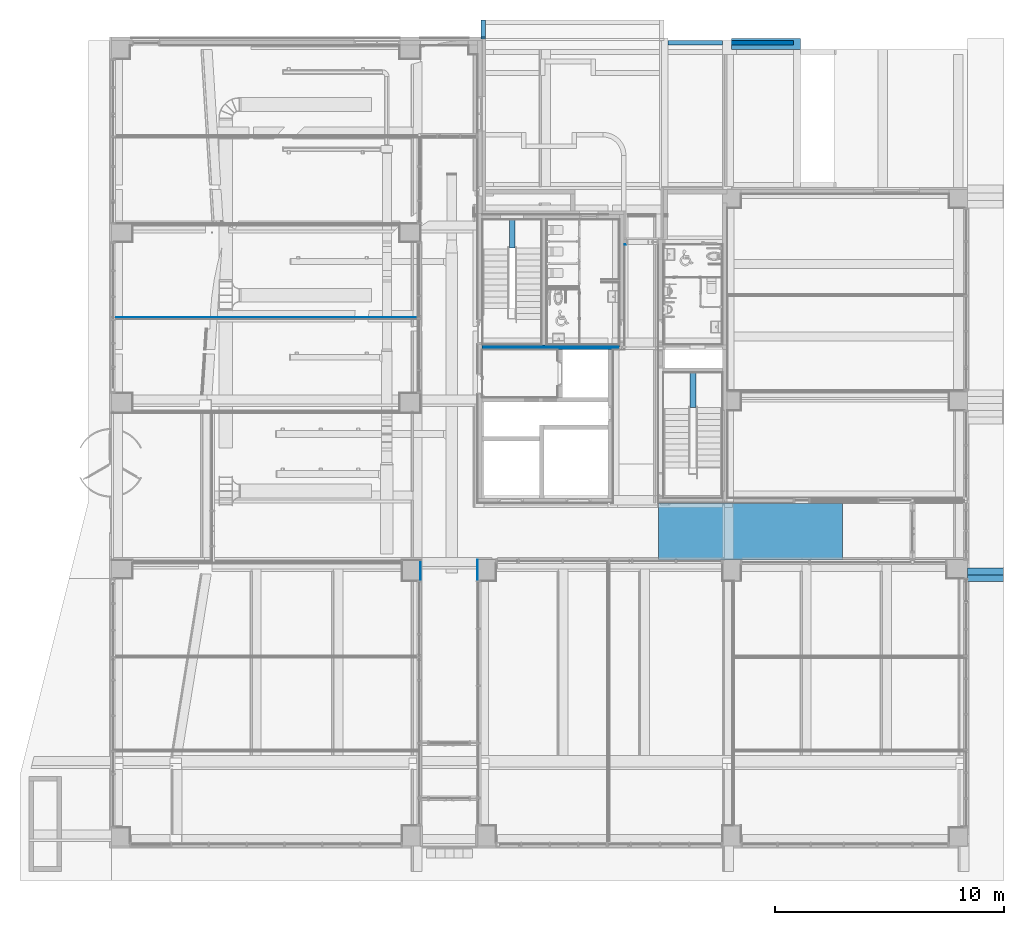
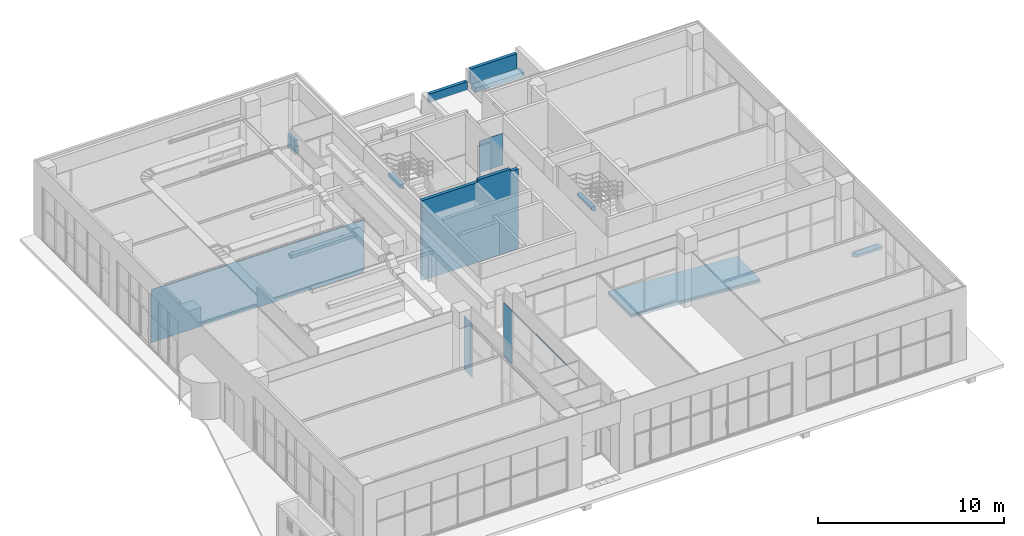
# One storey, part 54 of 100: 9 walls, 3 stair flights, 2 ramps, 3 elements without a shape of their own.
"""IFC2X3 building model written with IfcOpenShell, lengths in millimetres."""

from ifc_helpers import new_model, entity, si_unit, converted_unit, derived_unit, direction, frame, frame_2d, origin, place, context, subcontext, project, spatial, polyline, rectangle, outline, extrude, clip, halfspace, faceted_brep, material, layer, layer_set, layer_usage, type_object, element, aggregate, save


model = new_model("IFC2X3")

# Units and contexts
model_context = context("Model", 3, precision=0.01, world=origin(), true_north=direction((6.123031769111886e-17, 1.0)))
body_context = subcontext(model_context, "Body", "Model", "MODEL_VIEW")
ifc_project = project(units=[si_unit("LENGTHUNIT", "METRE", prefix="MILLI"), si_unit("AREAUNIT", "SQUARE_METRE"), si_unit("VOLUMEUNIT", "CUBIC_METRE"), converted_unit("PLANEANGLEUNIT", "DEGREE", entity("IfcRatioMeasure", 0.017453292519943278), si_unit("PLANEANGLEUNIT", "RADIAN"), dimensions=[0, 0, 0, 0, 0, 0, 0]), si_unit("MASSUNIT", "GRAM", prefix="KILO"), derived_unit("MASSDENSITYUNIT", [(si_unit("MASSUNIT", "GRAM", prefix="KILO"), 1), (si_unit("LENGTHUNIT", "METRE"), -3)]), derived_unit("MOMENTOFINERTIAUNIT", [(si_unit("LENGTHUNIT", "METRE"), 4)]), si_unit("TIMEUNIT", "SECOND"), si_unit("FREQUENCYUNIT", "HERTZ"), si_unit("THERMODYNAMICTEMPERATUREUNIT", "DEGREE_CELSIUS"), derived_unit("THERMALTRANSMITTANCEUNIT", [(si_unit("MASSUNIT", "GRAM", prefix="KILO"), 1), (si_unit("THERMODYNAMICTEMPERATUREUNIT", "KELVIN"), -1), (si_unit("TIMEUNIT", "SECOND"), -3)]), derived_unit("VOLUMETRICFLOWRATEUNIT", [(si_unit("LENGTHUNIT", "METRE"), 3), (si_unit("TIMEUNIT", "SECOND"), -1)]), derived_unit("MASSFLOWRATEUNIT", [(si_unit("MASSUNIT", "GRAM", prefix="KILO"), 1), (si_unit("TIMEUNIT", "SECOND"), -1)]), derived_unit("ROTATIONALFREQUENCYUNIT", [(si_unit("TIMEUNIT", "SECOND"), -1)]), si_unit("ELECTRICCURRENTUNIT", "AMPERE"), si_unit("ELECTRICVOLTAGEUNIT", "VOLT"), si_unit("POWERUNIT", "WATT"), si_unit("FORCEUNIT", "NEWTON", prefix="KILO"), si_unit("ILLUMINANCEUNIT", "LUX"), si_unit("LUMINOUSFLUXUNIT", "LUMEN"), si_unit("LUMINOUSINTENSITYUNIT", "CANDELA"), derived_unit("USERDEFINED", [(si_unit("MASSUNIT", "GRAM", prefix="KILO"), -1), (si_unit("LENGTHUNIT", "METRE"), -2), (si_unit("TIMEUNIT", "SECOND"), 3), (si_unit("LUMINOUSFLUXUNIT", "LUMEN"), 1)]), derived_unit("SOUNDPOWERUNIT", [(si_unit("MASSUNIT", "GRAM", prefix="KILO"), 1), (si_unit("LENGTHUNIT", "METRE"), 2), (si_unit("TIMEUNIT", "SECOND"), -3)]), derived_unit("SOUNDPRESSUREUNIT", [(si_unit("MASSUNIT", "GRAM", prefix="KILO"), 1), (si_unit("LENGTHUNIT", "METRE"), -1), (si_unit("TIMEUNIT", "SECOND"), -2)]), derived_unit("LINEARVELOCITYUNIT", [(si_unit("LENGTHUNIT", "METRE"), 1), (si_unit("TIMEUNIT", "SECOND"), -1)]), si_unit("PRESSUREUNIT", "PASCAL"), derived_unit("USERDEFINED", [(si_unit("LENGTHUNIT", "METRE"), -2), (si_unit("MASSUNIT", "GRAM", prefix="KILO"), 1), (si_unit("TIMEUNIT", "SECOND"), -2)]), derived_unit("LINEARFORCEUNIT", [(si_unit("MASSUNIT", "GRAM", prefix="KILO"), 1), (si_unit("LENGTHUNIT", "METRE"), 1), (si_unit("TIMEUNIT", "SECOND"), -2), (si_unit("LENGTHUNIT", "METRE"), -1)]), derived_unit("PLANARFORCEUNIT", [(si_unit("MASSUNIT", "GRAM", prefix="KILO"), 1), (si_unit("LENGTHUNIT", "METRE"), 1), (si_unit("TIMEUNIT", "SECOND"), -2), (si_unit("LENGTHUNIT", "METRE"), -2)])], contexts=[model_context])

# Site, building, storey
site_placement = place(None, frame((-14167.972527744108, -657.2125860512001, 0.0)))
site = spatial("IfcSite", under=ifc_project, at=site_placement, Name="Default", CompositionType="ELEMENT")
building_placement = place(site_placement, origin())
building = spatial("IfcBuilding", under=site, at=building_placement, Name="Sample Building", CompositionType="ELEMENT")
storey_placement = place(building_placement, origin())
storey = spatial("IfcBuildingStorey", under=building, at=storey_placement, Name="지상 1층", CompositionType="ELEMENT", Elevation=0.0)

# Walls
ifc_material_1 = material(Name="KBIMS-콘크리트")
ifc_layer_1 = layer(ifc_material_1, 200.0)
ifc_layer_set_1 = layer_set([ifc_layer_1], Name="기본 벽:WA111-철근콘크리트구조 벽 200mm_CW1")
wall_type_1 = type_object("IfcWallType", Name="기본 벽:WA111-철근콘크리트구조 벽 200mm_CW1", PredefinedType="STANDARD", material=ifc_layer_set_1)
wall_1_placement = place(storey_placement, frame((30266.125814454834, 22357.21231133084, -600.0)))
element("IfcWall", 1, at=wall_1_placement, inside=storey, type_object=wall_type_1, Name="기본 벽:WA111-철근콘크리트구조 벽 200mm_CW1", ObjectType="기본 벽:WA111-철근콘크리트구조 벽 200mm_CW1", context=body_context, shape_type="Brep", body=[
    faceted_brep([(0.0, -100.0, 0.0), (5701.846676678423, -100.0, 0.0), (5977.1200846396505, -100.0, 0.0), (6001.837983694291, -100.0, 0.0), (6001.837983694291, -100.0, 50.0), (6001.837983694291, -100.0, 5250.0), (5901.829327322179, -100.0, 5250.0), (5701.846676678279, -100.0, 5250.0), (5501.846676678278, -100.0, 5250.0), (5501.846676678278, -100.0, 5400.0), (3501.846676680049, -100.0, 5400.0), (3501.846676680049, -100.0, 5250.0), (3301.846676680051, -100.0, 5250.0), (1.8206343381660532, -100.0, 5250.0), (0.0, -100.0, 5250.0), (0.0, -100.0, 5000.0), (0.0, -100.0, 680.0), (0.0, -100.0, 600.0), (0.0, -100.0, 450.0), (6001.837983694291, 100.0, 0.0), (5701.846676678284, 100.0, 0.0), (5677.128777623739, 100.0, 0.0), (2801.8466766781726, 100.0, 0.0), (1389.137983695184, 100.0, 0.0), (0.0, 100.0, 0.0), (0.0, 100.0, 600.0), (0.0, 100.0, 5000.0), (0.0, 100.0, 5250.0), (1.8379470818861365, 100.0, 5250.0), (3501.846676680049, 100.0, 5250.0), (3501.846676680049, 100.0, 5400.0), (5501.846676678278, 100.0, 5400.0), (5501.846676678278, 100.0, 5250.0), (6001.837983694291, 100.0, 5250.0), (6001.837983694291, 100.0, 5200.0), (6001.837983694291, 100.0, 5000.0), (6001.837983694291, 100.0, 90.0), (6001.837983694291, 100.0, 50.0), (6001.837983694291, 13.864807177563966, 0.0)], [[[0, 1, 2, 3, 4, 5, 6, 7, 8, 9, 10, 11, 12, 13, 14, 15, 16, 17, 18]], [[19, 20, 21, 22, 23, 24, 25, 26, 27, 28, 29, 30, 31, 32, 33, 34, 35, 36, 37]], [[3, 2, 1, 0, 24, 23, 22, 21, 20, 19, 38]], [[10, 9, 31, 30]], [[3, 38, 19, 37, 36, 35, 34, 33, 5, 4]], [[11, 29, 28, 27, 14, 13, 12]], [[29, 11, 10, 30]], [[8, 32, 31, 9]], [[24, 0, 18, 17, 16, 15, 14, 27, 26, 25]], [[32, 8, 7, 6, 5, 33]]]),
])
wall_2_placement = place(storey_placement, frame((30317.97249113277, 35832.21229514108, -550.0), z_axis=(0.0, 0.0, 1.0), x_axis=(0.0, 1.0, 0.0)))
element("IfcWall", 2, at=wall_2_placement, inside=storey, type_object=wall_type_1, Name="기본 벽:WA111-철근콘크리트구조 벽 200mm_CW1", ObjectType="기본 벽:WA111-철근콘크리트구조 벽 200mm_CW1", context=body_context, shape_type="Brep", body=[
    faceted_brep([(0.0, -100.0, 0.0), (624.9999801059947, -100.0, 0.0), (824.999980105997, -100.0, 0.0), (824.999980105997, -100.0, 900.0), (624.9999801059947, -100.0, 900.0), (75.0, -100.0, 900.0), (75.0, -100.0, 550.0), (0.0, -100.0, 550.0), (0.0, 100.0, 0.0), (0.0, 100.0, 550.0), (25.000012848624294, 100.0, 550.0), (75.0, 100.0, 550.0), (75.0, 100.0, 900.0), (824.999980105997, 100.0, 900.0), (824.999980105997, 100.0, 0.0), (25.000012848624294, 100.0, 0.0), (0.0, 50.00872959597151, 0.0), (0.0, 50.00872959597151, 550.0)], [[[0, 1, 2, 3, 4, 5, 6, 7]], [[8, 9, 10, 11, 12, 13, 14, 15]], [[2, 1, 0, 16, 8, 15, 14]], [[5, 4, 3, 13, 12]], [[3, 2, 14, 13]], [[0, 7, 17, 9, 8, 16]], [[6, 11, 10, 9, 17, 7]], [[6, 5, 12, 11]]]),
])
ifc_layer_usage_1 = layer_usage(ifc_layer_set_1, "AXIS2", "POSITIVE", -100.0)
wall_3_placement = place(storey_placement, frame((40767.96379814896, 35657.21230798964, 200.0), z_axis=(0.0, 0.0, 1.0), x_axis=(-1.0, 0.0, 0.0)))
element("IfcWallStandardCase", 3, at=wall_3_placement, inside=storey, type_object=wall_type_1, material=ifc_layer_usage_1, Name="기본 벽:WA111-철근콘크리트구조 벽 200mm_CW1", ObjectType="기본 벽:WA111-철근콘크리트구조 벽 200mm_CW1", context=body_context, shape_type="SweptSolid", body=[
    extrude(rectangle(XDim=2374.7081693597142, YDim=199.99999999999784, at=frame_2d((1187.3540846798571, 0.0), x_axis=(-1.0, 0.0))), origin(), (0.0, 0.0, 1.0), 550.0),
])
ifc_layer_2 = layer(ifc_material_1, 200.0)
ifc_layer_set_2 = layer_set([ifc_layer_2], Name="기본 벽:WA111-철근콘크리트구조 벽 200mm_W1")
ifc_layer_usage_2 = layer_usage(ifc_layer_set_2, "AXIS2", "NEGATIVE", 100.0)
wall_type_2 = type_object("IfcWallType", Name="기본 벽:WA111-철근콘크리트구조 벽 200mm_W1", PredefinedType="STANDARD", material=ifc_layer_set_2)
wall_4_placement = place(storey_placement, frame((40967.96379814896, 35657.21230798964, 500.0)))
element("IfcWallStandardCase", 4, at=wall_4_placement, inside=storey, type_object=wall_type_2, material=ifc_layer_usage_2, Name="기본 벽:WA111-철근콘크리트구조 벽 200mm_W1", ObjectType="기본 벽:WA111-철근콘크리트구조 벽 200mm_W1", context=body_context, shape_type="SweptSolid", body=[
    extrude(rectangle(XDim=2899.9999999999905, YDim=199.99999999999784, at=frame_2d((1449.9999999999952, 0.0), x_axis=(-1.0, 0.0))), origin(), (0.0, 0.0, 1.0), 1000.0000000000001),
])
ifc_layer_3 = layer(ifc_material_1, 500.00000000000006)
ifc_layer_set_3 = layer_set([ifc_layer_3], Name="기본 벽:WA111-철근콘크리트구조 벽 500mm_BW4")
wall_type_3 = type_object("IfcWallType", Name="기본 벽:WA111-철근콘크리트구조 벽 500mm_BW4", PredefinedType="STANDARD", material=ifc_layer_set_3)
wall_5_placement = place(storey_placement, frame((26667.97249113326, 35607.21230798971, 0.0)))
element("IfcWall", 5, at=wall_5_placement, inside=storey, type_object=wall_type_3, Name="기본 벽:WA111-철근콘크리트구조 벽 500mm_BW4", ObjectType="기본 벽:WA111-철근콘크리트구조 벽 500mm_BW4", context=body_context, shape_type="Brep", body=[
    faceted_brep([(17499.991307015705, -250.0, 300.0), (14699.973957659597, -250.0, 300.0), (14499.99130701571, -250.0, 300.0), (14499.99130701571, -250.0, 0.0), (17499.991307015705, -250.0, 0.0), (14499.99130701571, 250.0, 0.0), (14499.99130701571, 250.0, 300.0), (17499.991307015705, 250.0, 300.0), (17499.991307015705, 250.0, 0.0), (14499.99130701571, 150.00030905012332, 300.0), (14499.99130701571, 150.00030905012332, 0.0)], [[[0, 1, 2, 3, 4]], [[5, 6, 7, 8]], [[7, 0, 4, 8]], [[3, 2, 9, 6, 5, 10]], [[1, 0, 7, 6, 9, 2]], [[4, 3, 10, 5, 8]]]),
])
ifc_material_2 = material(Name="WA611-수성페인트 (내부) 벽 (3회)")
ifc_layer_4 = layer(ifc_material_2, 1.0)
ifc_material_3 = material(Name="WA551-시멘트모르타르 (내부) 벽 18mm")
ifc_layer_5 = layer(ifc_material_3, 16.0)
ifc_material_4 = material(Name="WA555-콘크리트면정리 벽 (내부)")
ifc_layer_6 = layer(ifc_material_4, 1.0)
ifc_layer_set_4 = layer_set([ifc_layer_4, ifc_layer_5, ifc_layer_6], Name="기본 벽:A1-32-06A-콘크리트면정리, 시멘트모르타르(미장용), 수성페인트(내부) (18mm)")
wall_type_4 = type_object("IfcWallType", Name="기본 벽:A1-32-06A-콘크리트면정리, 시멘트모르타르(미장용), 수성페인트(내부) (18mm)", PredefinedType="STANDARD", material=ifc_layer_set_4)
wall_6_placement = place(storey_placement, frame((30058.972463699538, 5157.177624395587, 80.0), z_axis=(0.0, 0.0, 1.0), x_axis=(0.0, 1.0, 0.0)))
element("IfcWall", 6, at=wall_6_placement, inside=storey, type_object=wall_type_4, Name="기본 벽:A1-32-06A-콘크리트면정리, 시멘트모르타르(미장용), 수성페인트(내부) (18mm)", ObjectType="기본 벽:A1-32-06A-콘크리트면정리, 시멘트모르타르(미장용), 수성페인트(내부) (18mm)", context=body_context, shape_type="Brep", body=[
    faceted_brep([(7918.01725399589, -9.0, 3550.0), (7900.017253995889, -9.0, 3550.0), (0.0, -9.0, 3550.0), (0.0, -9.0, 3520.0), (7000.034992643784, -9.0, 3520.0), (7000.034992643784, -9.0, 0.0), (7918.01725399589, -9.0, 0.0), (0.0, 9.0, 3550.0), (7918.01725399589, 9.0, 3550.0), (7918.01725399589, 9.0, 0.0), (7000.034992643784, 9.0, 0.0), (7000.034992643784, 9.0, 3520.0), (0.0, 9.0, 3520.0)], [[[0, 1, 2, 3, 4, 5, 6]], [[7, 8, 9, 10, 11, 12]], [[9, 6, 5, 10]], [[2, 1, 0, 8, 7]], [[2, 7, 12, 3]], [[0, 6, 9, 8]], [[4, 11, 10, 5]], [[11, 4, 3, 12]]]),
])
wall_7_placement = place(storey_placement, frame((14229.839654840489, 23666.160207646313, 80.0)))
element("IfcWall", 7, at=wall_7_placement, inside=storey, type_object=wall_type_4, Name="기본 벽:A1-32-06A-콘크리트면정리, 시멘트모르타르(미장용), 수성페인트(내부) (18mm)", ObjectType="기본 벽:A1-32-06A-콘크리트면정리, 시멘트모르타르(미장용), 수성페인트(내부) (18mm)", context=body_context, shape_type="Brep", body=[
    faceted_brep([(0.0, -9.0, 0.0), (13243.115486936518, -9.0, 0.0), (13243.115486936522, -9.0, 2075.0), (13248.11548693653, -9.0, 2075.0), (13248.11548693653, -9.0, 3500.0), (0.0, -9.0, 3500.0), (0.0, 9.0, 0.0), (0.0, 9.0, 3500.0), (13230.11548693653, 9.0, 3500.0), (13248.11548693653, 9.0, 3500.0), (13248.11548693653, 9.0, 2075.0), (13243.115486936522, 9.0, 2075.0), (13243.115486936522, 9.0, 0.0), (13230.11548693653, 9.0, 0.0)], [[[0, 1, 2, 3, 4, 5]], [[6, 7, 8, 9, 10, 11, 12, 13]], [[1, 0, 6, 13, 12]], [[5, 4, 9, 8, 7]], [[0, 5, 7, 6]], [[10, 3, 2, 11]], [[2, 1, 12, 11]], [[4, 3, 10, 9]]]),
])
wall_8_placement = place(storey_placement, frame((37949.96379814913, 26848.212295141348, -470.0), z_axis=(0.0, 0.0, 1.0), x_axis=(-1.0, 0.0, 0.0)))
element("IfcWall", 8, at=wall_8_placement, inside=storey, type_object=wall_type_4, Name="기본 벽:A1-32-06A-콘크리트면정리, 시멘트모르타르(미장용), 수성페인트(내부) (18mm)", ObjectType="기본 벽:A1-32-06A-콘크리트면정리, 시멘트모르타르(미장용), 수성페인트(내부) (18mm)", context=body_context, shape_type="Brep", body=[
    faceted_brep([(1464.0, -9.0, 4100.0), (0.0, -9.0, 4100.0), (0.0, -9.0, 2020.0), (1381.9913070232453, -9.0, 2020.0), (1381.9913070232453, -9.0, 0.0), (1464.0, -9.0, 0.0), (0.0, 9.0, 4100.0), (1464.0, 9.0, 4100.0), (1464.0, 9.0, 0.0), (1381.9913070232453, 9.0, 0.0), (1381.9913070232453, 9.0, 2020.0), (0.0, 9.0, 2020.0)], [[[0, 1, 2, 3, 4, 5]], [[6, 7, 8, 9, 10, 11]], [[8, 5, 4, 9]], [[1, 0, 7, 6]], [[1, 6, 11, 2]], [[0, 5, 8, 7]], [[3, 10, 9, 4]], [[10, 3, 2, 11]]]),
])
wall_9_placement = place(storey_placement, frame((27576.97249113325, 13057.194891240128, 80.0), z_axis=(0.0, 0.0, 1.0), x_axis=(0.0, -1.0, 0.0)))
element("IfcWall", 9, at=wall_9_placement, inside=storey, type_object=wall_type_4, Name="기본 벽:A1-32-06A-콘크리트면정리, 시멘트모르타르(미장용), 수성페인트(내부) (18mm)", ObjectType="기본 벽:A1-32-06A-콘크리트면정리, 시멘트모르타르(미장용), 수성페인트(내부) (18mm)", context=body_context, shape_type="Brep", body=[
    faceted_brep([(7901.0, -9.0, 3550.0), (0.0, -9.0, 3550.0), (0.0, -9.0, 0.0), (899.9822742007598, -9.0, 0.0), (899.9822742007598, -9.0, 3520.0), (7901.0, -9.0, 3520.0), (0.0, 9.0, 3550.0), (7901.0, 9.0, 3550.0), (7901.0, 9.0, 3520.0), (899.9822742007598, 9.0, 3520.0), (899.9822742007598, 9.0, 0.0), (0.0, 9.0, 0.0)], [[[0, 1, 2, 3, 4, 5]], [[6, 7, 8, 9, 10, 11]], [[2, 11, 10, 3]], [[7, 0, 5, 8]], [[1, 0, 7, 6]], [[2, 1, 6, 11]], [[4, 9, 8, 5]], [[9, 4, 3, 10]]]),
])

# Stair, stair flight
stair_1_placement = place(storey_placement, origin())
stair_1 = element("IfcStair", 10, at=stair_1_placement, inside=storey, Name="현장타설 계단:계단", ObjectType="현장타설 계단:ST111-철근콘크리트구조 계단 (직선형)", ShapeType="STRAIGHT_RUN_STAIR")
stair_flight_type_1 = type_object("IfcStairFlightType", Name="일체형 계단진행:일체형 계단진행 150mm_철근콘크리트", PredefinedType="STRAIGHT")
stair_flight_1_placement = place(stair_1_placement, frame((51467.96379814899, 12117.212729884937, 0.0)))
stair_flight_1 = element("IfcStairFlight", 11, at=stair_flight_1_placement, type_object=stair_flight_type_1, material=ifc_material_1, Name="현장타설 계단:계단:5367435 Run 1", ObjectType="일체형 계단진행:일체형 계단진행 150mm_철근콘크리트", NumberOfRiser=3, NumberOfTreads=2, RiserHeight=0.5468066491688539, TreadLength=0.9733158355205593, context=body_context, shape_type="Brep", body=[
    faceted_brep([(1600.0098092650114, 296.66666666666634, -333.33333333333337), (1600.0098092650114, 593.3333333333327, -333.33333333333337), (0.0, 593.3333333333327, -333.33333333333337), (0.0, 296.66666666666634, -333.33333333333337), (1600.0098092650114, 296.66666666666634, -505.38383780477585), (1600.0098092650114, 593.3333333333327, -672.050504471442), (0.0, 593.3333333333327, -672.050504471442), (0.0, 296.66666666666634, -505.3838378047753), (1600.0098092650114, 0.0, -166.66666666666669), (1600.0098092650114, 296.66666666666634, -166.66666666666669), (0.0, 296.66666666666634, -166.66666666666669), (0.0, 0.0, -166.66666666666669), (1600.0098092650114, 0.0, -338.71717113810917), (0.0, 0.0, -338.7171711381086)], [[[0, 1, 2, 3]], [[1, 0, 4, 5]], [[2, 1, 5, 6]], [[3, 2, 6, 7]], [[8, 9, 10, 11]], [[9, 8, 12, 4, 0]], [[0, 3, 10, 9]], [[11, 10, 3, 7, 13]], [[8, 11, 13, 12]], [[5, 4, 12, 13, 7, 6]]]),
])
aggregate(stair_1, [stair_flight_1])

stair_2_placement = place(storey_placement, origin())
stair_2 = element("IfcStair", 12, at=stair_2_placement, inside=storey, Name="현장타설 계단:계단", ObjectType="현장타설 계단:ST111-철근콘크리트구조 계단 (U형)", ShapeType="NOTDEFINED")
stair_flight_type_2 = type_object("IfcStairFlightType", Name="일체형 계단진행:일체형 계단진행 150mm_철근콘크리트", PredefinedType="STRAIGHT")
stair_flight_2_placement = place(stair_2_placement, origin())
stair_flight_2 = element("IfcStairFlight", 13, at=stair_flight_2_placement, type_object=stair_flight_type_2, material=ifc_material_1, Name="현장타설 계단:계단:5949467 Run 2", ObjectType="일체형 계단진행:일체형 계단진행 150mm_철근콘크리트", NumberOfRiser=2, NumberOfTreads=1, RiserHeight=0.6056935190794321, TreadLength=0.8530183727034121, context=body_context, shape_type="SweptSolid", body=[
    extrude(outline(polyline([(-172.0463018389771, -148.25913206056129), (40.115754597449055, -148.25913206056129), (87.95369816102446, -148.25913206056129), (87.95369816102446, 36.356252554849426), (87.95369816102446, 186.35625255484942), (40.115754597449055, 186.35625255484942), (-172.04630183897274, 35.708638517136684), (-172.0463018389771, -148.25913206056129)])), frame((31620.026616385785, 26687.21230798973, 2436.3562525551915), z_axis=(0.0, 1.0, 0.0), x_axis=(1.0, 0.0, 0.0)), (0.0, 0.0, 1.0), 1269.9999999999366),
])
aggregate(stair_2, [stair_flight_2])

stair_3_placement = place(storey_placement, origin())
stair_3 = element("IfcStair", 14, at=stair_3_placement, inside=storey, Name="현장타설 계단:계단", ObjectType="현장타설 계단:ST111-철근콘크리트구조 계단 (U형)", ShapeType="NOTDEFINED")
stair_flight_type_3 = type_object("IfcStairFlightType", Name="일체형 계단진행:일체형 계단진행 150mm_철근콘크리트", PredefinedType="STRAIGHT")
stair_flight_3_placement = place(stair_3_placement, origin())
stair_flight_3 = element("IfcStairFlight", 15, at=stair_flight_3_placement, type_object=stair_flight_type_3, material=ifc_material_1, Name="현장타설 계단:계단:5959493 Run 2", ObjectType="일체형 계단진행:일체형 계단진행 150mm_철근콘크리트", NumberOfRiser=2, NumberOfTreads=1, RiserHeight=0.6056935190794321, TreadLength=0.8530183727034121, context=body_context, shape_type="SweptSolid", body=[
    extrude(outline(polyline([(-172.0463018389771, -148.25913206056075), (40.11575459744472, -148.25913206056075), (87.95369816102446, -148.25913206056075), (87.95369816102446, 36.356252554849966), (87.95369816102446, 186.35625255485), (40.11575459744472, 186.35625255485), (-172.0463018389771, 35.70863851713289), (-172.0463018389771, -148.25913206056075)])), frame((39511.86460008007, 19727.212291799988, 2436.356252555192), z_axis=(0.0, 1.0, 0.0), x_axis=(1.0, 0.0, 0.0)), (0.0, 0.0, 1.0), 1530.0000000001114),
])
aggregate(stair_3, [stair_flight_3])

# Ramps
ifc_layer_7 = layer(ifc_material_1, 150.0)
ifc_layer_set_5 = layer_set([ifc_layer_7], Name="바닥:SL111-철근콘크리트구조 바닥 150mm_S3")
ifc_layer_usage_3 = layer_usage(ifc_layer_set_5, "AXIS3", "POSITIVE", 0.0)
ramp_1_placement = place(storey_placement, origin())
element("IfcRamp", 16, at=ramp_1_placement, inside=storey, material=ifc_layer_usage_3, Name="바닥:SL111-철근콘크리트구조 바닥 150mm_S3", ObjectType="바닥:SL111-철근콘크리트구조 바닥 150mm_S3", ShapeType="STRAIGHT_RUN_RAMP", context=body_context, shape_type="SweptSolid", body=[
    clip(clip(extrude(rectangle(XDim=8058.990112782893, YDim=2499.9999120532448, at=frame_2d((-6.480149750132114e-12, 0.0), x_axis=(0.0, 1.0))), frame((41989.696062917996, 14307.212339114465, -250.0), z_axis=(-0.0620425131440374, 0.0, -0.9980735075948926), x_axis=(0.0, 1.0, 0.0)), (0.0, 0.0620425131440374, 0.9980735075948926), 150.57962213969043), halfspace(frame((37967.96379814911, 14482.212248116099, -150.2895316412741), z_axis=(-0.062042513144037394, 0.0, -0.9980735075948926), x_axis=(0.9980735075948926, 0.0, -0.062042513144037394)), False)), halfspace(frame((37967.96379814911, 14482.212248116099, 0.0), z_axis=(0.062042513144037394, 0.0, 0.9980735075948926), x_axis=(-0.9980735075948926, 0.0, 0.062042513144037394)), False)),
])
ifc_material_5 = material(Name="SL312-화강석물갈기 바닥 (바탕30mm, 마감30mm)")
ifc_layer_8 = layer(ifc_material_5, 80.0)
ifc_layer_set_6 = layer_set([ifc_layer_8], Name="바닥:A1-15-01B-화강석(물갈기) (80mm)")
ifc_layer_usage_4 = layer_usage(ifc_layer_set_6, "AXIS3", "POSITIVE", 0.0)
ramp_2_placement = place(storey_placement, origin())
element("IfcRamp", 17, at=ramp_2_placement, inside=storey, material=ifc_layer_usage_4, Name="바닥:A1-15-01B-화강석(물갈기) (80mm)", ObjectType="바닥:A1-15-01B-화강석(물갈기) (80mm)", ShapeType="STRAIGHT_RUN_RAMP", context=body_context, shape_type="SweptSolid", body=[
    clip(clip(extrude(rectangle(XDim=8058.990112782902, YDim=2499.9999120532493, at=frame_2d((-7.503331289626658e-12, -4.320099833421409e-12), x_axis=(0.0, 1.0))), frame((41989.696062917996, 14307.212339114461, -170.0), z_axis=(-0.06204251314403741, 0.0, -0.9980735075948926), x_axis=(0.0, 1.0, 0.0)), (0.0, 0.06204251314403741, 0.9980735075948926), 80.30913180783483), halfspace(frame((37967.96379814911, 14307.212339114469, -0.1544168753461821), z_axis=(-0.062042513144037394, 0.0, -0.9980735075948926), x_axis=(0.9980735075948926, 0.0, -0.062042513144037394)), False)), halfspace(frame((37967.96379814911, 14307.212339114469, 80.0), z_axis=(0.062042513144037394, 0.0, 0.9980735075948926), x_axis=(-0.9980735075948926, 0.0, 0.062042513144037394)), False)),
])

save(model, "model.ifc")
